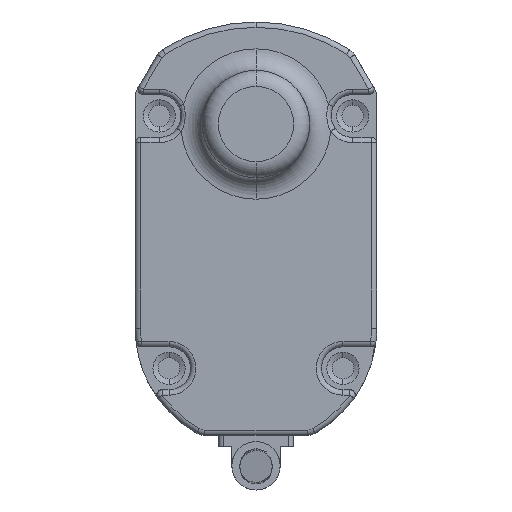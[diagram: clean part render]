
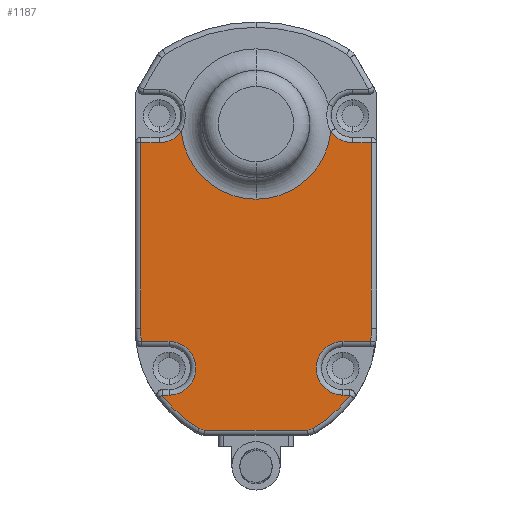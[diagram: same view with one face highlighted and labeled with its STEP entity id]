
A CAD part, front view. The second image highlights one B-rep face of the part: STEP entity #1187.
In plain terms, the highlighted planar face has unit normal (0, -1, 0).
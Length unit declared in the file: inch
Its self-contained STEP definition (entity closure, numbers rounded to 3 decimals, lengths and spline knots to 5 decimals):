
#1187=ADVANCED_FACE('NONE',(#2544),#2545,.T.);
#2544=FACE_OUTER_BOUND('',#4243,.T.);
#2545=PLANE('',#4244);
#4243=EDGE_LOOP('',(#7727,#7728,#7729,#7730,#7731,#7732,#7733,#7734,#7735,#7736,#7737,#7738,#7739,#7740,#7741,#7742,#7743,#7744,#7745,#7746,#7747));
#4244=AXIS2_PLACEMENT_3D('',#7748,#7749,#7750);
#7727=ORIENTED_EDGE('',*,*,#9854,.T.);
#7728=ORIENTED_EDGE('',*,*,#9608,.T.);
#7729=ORIENTED_EDGE('',*,*,#10652,.T.);
#7730=ORIENTED_EDGE('',*,*,#10428,.T.);
#7731=ORIENTED_EDGE('',*,*,#10800,.T.);
#7732=ORIENTED_EDGE('',*,*,#10229,.T.);
#7733=ORIENTED_EDGE('',*,*,#10801,.T.);
#7734=ORIENTED_EDGE('',*,*,#10682,.T.);
#7735=ORIENTED_EDGE('',*,*,#10379,.T.);
#7736=ORIENTED_EDGE('',*,*,#10802,.T.);
#7737=ORIENTED_EDGE('',*,*,#9443,.T.);
#7738=ORIENTED_EDGE('',*,*,#10713,.T.);
#7739=ORIENTED_EDGE('',*,*,#10803,.T.);
#7740=ORIENTED_EDGE('',*,*,#10804,.T.);
#7741=ORIENTED_EDGE('',*,*,#10689,.T.);
#7742=ORIENTED_EDGE('',*,*,#10397,.T.);
#7743=ORIENTED_EDGE('',*,*,#9677,.T.);
#7744=ORIENTED_EDGE('',*,*,#9918,.T.);
#7745=ORIENTED_EDGE('',*,*,#9450,.T.);
#7746=ORIENTED_EDGE('',*,*,#10805,.T.);
#7747=ORIENTED_EDGE('',*,*,#10806,.T.);
#7748=CARTESIAN_POINT('',(0.88583,-0.62992,1.51575));
#7749=DIRECTION('',(0.0,-1.0,0.0));
#7750=DIRECTION('',(-1.0,0.0,0.));
#9443=EDGE_CURVE('NONE',#11191,#11189,#11192,.T.);
#9450=EDGE_CURVE('NONE',#11198,#11202,#11204,.T.);
#9608=EDGE_CURVE('NONE',#11475,#11483,#11485,.T.);
#9677=EDGE_CURVE('NONE',#11605,#11603,#11606,.T.);
#9854=EDGE_CURVE('NONE',#11914,#11475,#11915,.T.);
#9918=EDGE_CURVE('NONE',#11603,#11198,#12017,.T.);
#10229=EDGE_CURVE('NONE',#12517,#12515,#12518,.T.);
#10379=EDGE_CURVE('NONE',#12744,#11461,#12745,.T.);
#10397=EDGE_CURVE('NONE',#12771,#11605,#12772,.T.);
#10428=EDGE_CURVE('NONE',#12816,#12215,#12818,.T.);
#10652=EDGE_CURVE('NONE',#11483,#12816,#13125,.T.);
#10682=EDGE_CURVE('NONE',#13162,#12744,#13163,.T.);
#10689=EDGE_CURVE('NONE',#13170,#12771,#13171,.T.);
#10713=EDGE_CURVE('NONE',#11189,#13199,#13201,.T.);
#10800=EDGE_CURVE('NONE',#12215,#12517,#13306,.T.);
#10801=EDGE_CURVE('NONE',#12515,#13162,#13307,.T.);
#10802=EDGE_CURVE('NONE',#11461,#11191,#13308,.T.);
#10803=EDGE_CURVE('NONE',#13199,#13309,#13310,.T.);
#10804=EDGE_CURVE('NONE',#13309,#13170,#13311,.T.);
#10805=EDGE_CURVE('NONE',#11202,#13312,#13313,.T.);
#10806=EDGE_CURVE('NONE',#13312,#11914,#13314,.T.);
#11189=VERTEX_POINT('NONE',#13746);
#11191=VERTEX_POINT('NONE',#13748);
#11192=CIRCLE('',#13749,0.07874);
#11198=VERTEX_POINT('NONE',#13755);
#11202=VERTEX_POINT('NONE',#13760);
#11204=LINE('',#13762,#13763);
#11461=VERTEX_POINT('NONE',#14097);
#11475=VERTEX_POINT('NONE',#14113);
#11483=VERTEX_POINT('NONE',#14121);
#11485=CIRCLE('',#14136,0.55118);
#11603=VERTEX_POINT('NONE',#14298);
#11605=VERTEX_POINT('NONE',#14300);
#11606=LINE('',#14301,#14302);
#11914=VERTEX_POINT('NONE',#14765);
#11915=CIRCLE('',#14766,0.55118);
#12017=CIRCLE('',#14955,0.84646);
#12215=VERTEX_POINT('NONE',#15415);
#12515=VERTEX_POINT('NONE',#15889);
#12517=VERTEX_POINT('NONE',#15891);
#12518=CIRCLE('',#15892,0.84646);
#12744=VERTEX_POINT('NONE',#16180);
#12745=LINE('',#16181,#16182);
#12771=VERTEX_POINT('NONE',#16214);
#12772=CIRCLE('',#16215,0.19685);
#12816=VERTEX_POINT('NONE',#16317);
#12818=LINE('',#16319,#16320);
#13125=CIRCLE('',#16768,0.19685);
#13162=VERTEX_POINT('NONE',#16820);
#13163=CIRCLE('',#16821,0.19685);
#13170=VERTEX_POINT('NONE',#16830);
#13171=LINE('',#16831,#16832);
#13199=VERTEX_POINT('NONE',#16904);
#13201=LINE('',#16906,#16907);
#13306=LINE('',#17104,#17105);
#13307=LINE('',#17106,#17107);
#13308=CIRCLE('',#17108,0.84646);
#13309=VERTEX_POINT('NONE',#17109);
#13310=CIRCLE('',#17110,0.07874);
#13311=CIRCLE('',#17111,0.84646);
#13312=VERTEX_POINT('NONE',#17112);
#13313=LINE('',#17113,#17114);
#13314=CIRCLE('',#17115,0.19685);
#13746=CARTESIAN_POINT('',(-0.37608,-0.62992,-1.47638));
#13748=CARTESIAN_POINT('',(-0.41465,-0.62992,-1.46628));
#13749=AXIS2_PLACEMENT_3D('',#17751,#17752,#17753);
#13755=CARTESIAN_POINT('',(0.84646,-0.62992,-0.72835));
#13760=CARTESIAN_POINT('',(0.84646,-0.62992,0.62992));
#13762=CARTESIAN_POINT('',(0.84646,-0.62992,0.62992));
#13763=VECTOR('',#17767,39.37008);
#14097=CARTESIAN_POINT('',(-0.6887,-0.62992,-1.22047));
#14113=CARTESIAN_POINT('',(0.,-0.62992,0.21654));
#14121=CARTESIAN_POINT('',(-0.5484,-0.62992,0.71246));
#14136=AXIS2_PLACEMENT_3D('',#18013,#18014,#18015);
#14298=CARTESIAN_POINT('',(0.84071,-0.62992,-0.82677));
#14300=CARTESIAN_POINT('',(0.6378,-0.62992,-0.82677));
#14301=CARTESIAN_POINT('',(0.84071,-0.62992,-0.82677));
#14302=VECTOR('',#18110,39.37008);
#14765=CARTESIAN_POINT('',(0.5484,-0.62992,0.71246));
#14766=AXIS2_PLACEMENT_3D('',#18395,#18396,#18397);
#14955=AXIS2_PLACEMENT_3D('',#18482,#18483,#18484);
#15415=CARTESIAN_POINT('',(-0.84646,-0.62992,0.62992));
#15889=CARTESIAN_POINT('',(-0.84071,-0.62992,-0.82677));
#15891=CARTESIAN_POINT('',(-0.84646,-0.62992,-0.72835));
#15892=AXIS2_PLACEMENT_3D('',#18925,#18926,#18927);
#16180=CARTESIAN_POINT('',(-0.6378,-0.62992,-1.22047));
#16181=CARTESIAN_POINT('',(0.88583,-0.62992,-1.22047));
#16182=VECTOR('',#19137,39.37008);
#16214=CARTESIAN_POINT('',(0.6378,-0.62992,-1.22047));
#16215=AXIS2_PLACEMENT_3D('',#19162,#19163,#19164);
#16317=CARTESIAN_POINT('',(-0.70866,-0.62992,0.62992));
#16319=CARTESIAN_POINT('',(0.88583,-0.62992,0.62992));
#16320=VECTOR('',#19199,39.37008);
#16768=AXIS2_PLACEMENT_3D('',#19481,#19482,#19483);
#16820=CARTESIAN_POINT('',(-0.6378,-0.62992,-0.82677));
#16821=AXIS2_PLACEMENT_3D('',#19520,#19521,#19522);
#16830=CARTESIAN_POINT('',(0.6887,-0.62992,-1.22047));
#16831=CARTESIAN_POINT('',(0.6378,-0.62992,-1.22047));
#16832=VECTOR('',#19528,39.37008);
#16904=CARTESIAN_POINT('',(0.37608,-0.62992,-1.47638));
#16906=CARTESIAN_POINT('',(0.37608,-0.62992,-1.47638));
#16907=VECTOR('',#19560,39.37008);
#17104=CARTESIAN_POINT('',(-0.84646,-0.62992,-0.72835));
#17105=VECTOR('',#19664,39.37008);
#17106=CARTESIAN_POINT('',(0.88583,-0.62992,-0.82677));
#17107=VECTOR('',#19665,39.37008);
#17108=AXIS2_PLACEMENT_3D('',#19666,#19667,#19668);
#17109=CARTESIAN_POINT('',(0.41465,-0.62992,-1.46628));
#17110=AXIS2_PLACEMENT_3D('',#19669,#19670,#19671);
#17111=AXIS2_PLACEMENT_3D('',#19672,#19673,#19674);
#17112=CARTESIAN_POINT('',(0.70866,-0.62992,0.62992));
#17113=CARTESIAN_POINT('',(0.70866,-0.62992,0.62992));
#17114=VECTOR('',#19675,39.37008);
#17115=AXIS2_PLACEMENT_3D('',#19676,#19677,#19678);
#17751=CARTESIAN_POINT('',(-0.37608,-0.62992,-1.39764));
#17752=DIRECTION('',(0.0,-1.0,0.0));
#17753=DIRECTION('',(0.,0.0,1.0));
#17767=DIRECTION('',(0.,0.0,1.0));
#18013=CARTESIAN_POINT('',(0.,-0.62992,0.76772));
#18014=DIRECTION('',(0.0,1.0,0.0));
#18015=DIRECTION('',(0.,0.0,1.0));
#18110=DIRECTION('',(1.0,0.0,0.));
#18395=CARTESIAN_POINT('',(0.,-0.62992,0.76772));
#18396=DIRECTION('',(0.0,1.0,0.0));
#18397=DIRECTION('',(0.,0.0,1.0));
#18482=CARTESIAN_POINT('',(0.,-0.62992,-0.72835));
#18483=DIRECTION('',(0.0,-1.0,0.0));
#18484=DIRECTION('',(0.,0.0,1.0));
#18925=CARTESIAN_POINT('',(0.,-0.62992,-0.72835));
#18926=DIRECTION('',(0.0,-1.0,0.0));
#18927=DIRECTION('',(0.,0.0,1.0));
#19137=DIRECTION('',(-1.0,0.0,0.));
#19162=CARTESIAN_POINT('',(0.6378,-0.62992,-1.02362));
#19163=DIRECTION('',(-0.0,1.0,0.0));
#19164=DIRECTION('',(0.,0.0,1.0));
#19199=DIRECTION('',(-1.0,0.0,0.));
#19481=CARTESIAN_POINT('',(-0.70866,-0.62992,0.82677));
#19482=DIRECTION('',(-0.0,1.0,0.0));
#19483=DIRECTION('',(0.,0.0,1.0));
#19520=CARTESIAN_POINT('',(-0.6378,-0.62992,-1.02362));
#19521=DIRECTION('',(-0.0,1.0,0.0));
#19522=DIRECTION('',(0.,0.0,1.0));
#19528=DIRECTION('',(-1.0,0.0,0.));
#19560=DIRECTION('',(1.0,-0.0,0.));
#19664=DIRECTION('',(0.,0.0,-1.0));
#19665=DIRECTION('',(1.0,-0.0,0.));
#19666=CARTESIAN_POINT('',(0.,-0.62992,-0.72835));
#19667=DIRECTION('',(0.0,-1.0,0.0));
#19668=DIRECTION('',(0.,0.0,1.0));
#19669=CARTESIAN_POINT('',(0.37608,-0.62992,-1.39764));
#19670=DIRECTION('',(0.0,-1.0,0.0));
#19671=DIRECTION('',(0.,0.0,1.0));
#19672=CARTESIAN_POINT('',(0.,-0.62992,-0.72835));
#19673=DIRECTION('',(0.0,-1.0,0.0));
#19674=DIRECTION('',(0.,0.0,1.0));
#19675=DIRECTION('',(-1.0,0.0,0.));
#19676=CARTESIAN_POINT('',(0.70866,-0.62992,0.82677));
#19677=DIRECTION('',(-0.0,1.0,0.0));
#19678=DIRECTION('',(0.,0.0,1.0));
